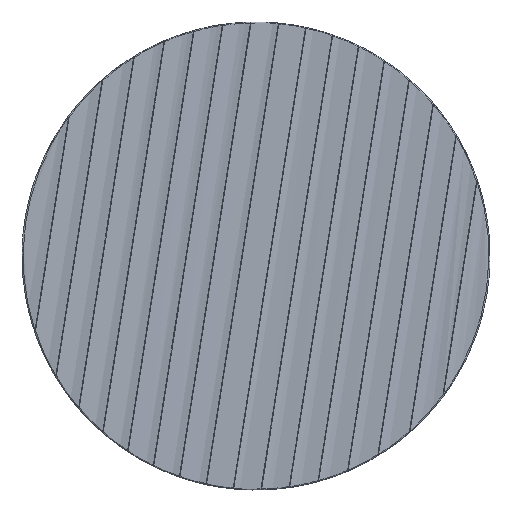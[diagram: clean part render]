
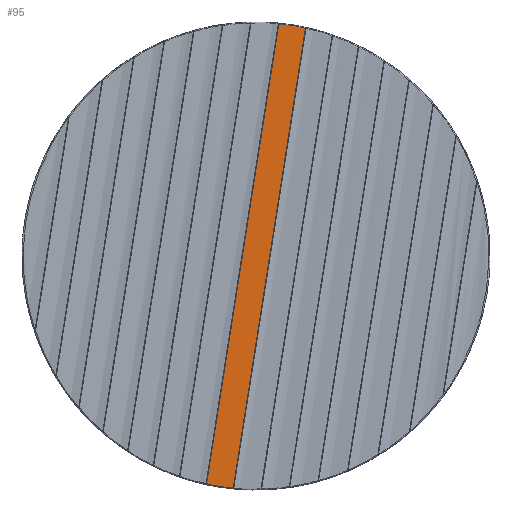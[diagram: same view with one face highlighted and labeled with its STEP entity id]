
A CAD part, front view. The second image highlights one B-rep face of the part: STEP entity #95.
In plain terms, the highlighted free-form (B-spline) face has degree [1, 2] with [2, 9] control points.
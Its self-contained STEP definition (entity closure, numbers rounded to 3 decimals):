
#95=ADVANCED_FACE('',(#1372),#17774,.T.);
#1372=FACE_OUTER_BOUND('',#2651,.T.);
#2651=EDGE_LOOP('',(#4084,#4085,#4086,#4087));
#4084=ORIENTED_EDGE('',*,*,#10093,.F.);
#4085=ORIENTED_EDGE('',*,*,#9957,.F.);
#4086=ORIENTED_EDGE('',*,*,#10089,.F.);
#4087=ORIENTED_EDGE('',*,*,#9956,.F.);
#9956=EDGE_CURVE('',#15930,#15931,#12904,.T.);
#9957=EDGE_CURVE('',#15933,#15932,#12905,.T.);
#10089=EDGE_CURVE('',#15931,#15933,#12985,.T.);
#10093=EDGE_CURVE('',#15932,#15930,#12986,.T.);
#12904=B_SPLINE_CURVE_WITH_KNOTS('',1,(#24171,#24172),.UNSPECIFIED.,.F.,
 .F.,(2,2),(-473.172,0.),.UNSPECIFIED.);
#12905=B_SPLINE_CURVE_WITH_KNOTS('',1,(#24173,#24174),.UNSPECIFIED.,.F.,
 .F.,(2,2),(-473.172,0.),.UNSPECIFIED.);
#12985=B_SPLINE_CURVE_WITH_KNOTS('',3,(#25071,#25072,#25073,#25074,#25075,
#25076,#25077,#25078,#25079,#25080,#25081,#25082),.UNSPECIFIED.,.F.,.F.,
(4,2,2,2,2,4),(0.,6.964,10.445,13.927,20.891,
27.854),.UNSPECIFIED.);
#12986=B_SPLINE_CURVE_WITH_KNOTS('',3,(#25094,#25095,#25096,#25097,#25098,
#25099,#25100,#25101,#25102,#25103,#25104,#25105),.UNSPECIFIED.,.F.,.F.,
(4,2,2,2,2,4),(0.,6.964,10.445,13.927,20.891,
27.854),.UNSPECIFIED.);
#15930=VERTEX_POINT('',#23745);
#15931=VERTEX_POINT('',#23746);
#15932=VERTEX_POINT('',#23747);
#15933=VERTEX_POINT('',#23748);
#17774=(
BOUNDED_SURFACE()
B_SPLINE_SURFACE(1,2,((#19795,#19796,#19797,#19798,#19799,#19800,#19801,
#19802,#19803),(#19804,#19805,#19806,#19807,#19808,#19809,#19810,#19811,
#19812)),.UNSPECIFIED.,.F.,.F.,.F.)
B_SPLINE_SURFACE_WITH_KNOTS((2,2),(3,2,2,2,3),(0.,568.801),(0.,
74.953,149.906,224.859,299.813),
 .UNSPECIFIED.)
GEOMETRIC_REPRESENTATION_ITEM()
RATIONAL_B_SPLINE_SURFACE(((1.,0.707,1.,0.707,1.,
0.707,1.,0.707,1.),(1.,0.707,1.,0.707,
1.,0.707,1.,0.707,1.)))
REPRESENTATION_ITEM('')
SURFACE()
);
#19795=CARTESIAN_POINT('',(3.056,-105.617,-288.359));
#19796=CARTESIAN_POINT('',(3.056,-57.9,-288.359));
#19797=CARTESIAN_POINT('',(-44.084,-57.9,-280.963));
#19798=CARTESIAN_POINT('',(-91.224,-57.9,-273.567));
#19799=CARTESIAN_POINT('',(-91.224,-105.617,-273.567));
#19800=CARTESIAN_POINT('',(-91.224,-153.333,-273.567));
#19801=CARTESIAN_POINT('',(-44.084,-153.333,-280.963));
#19802=CARTESIAN_POINT('',(3.056,-153.333,-288.359));
#19803=CARTESIAN_POINT('',(3.056,-105.617,-288.359));
#19804=CARTESIAN_POINT('',(91.224,-105.617,273.567));
#19805=CARTESIAN_POINT('',(91.224,-57.9,273.567));
#19806=CARTESIAN_POINT('',(44.084,-57.9,280.963));
#19807=CARTESIAN_POINT('',(-3.056,-57.9,288.359));
#19808=CARTESIAN_POINT('',(-3.056,-105.617,288.359));
#19809=CARTESIAN_POINT('',(-3.056,-153.333,288.359));
#19810=CARTESIAN_POINT('',(44.084,-153.333,280.963));
#19811=CARTESIAN_POINT('',(91.224,-153.333,273.567));
#19812=CARTESIAN_POINT('',(91.224,-105.617,273.567));
#23745=CARTESIAN_POINT('',(50.219,-59.913,231.601));
#23746=CARTESIAN_POINT('',(-23.125,-59.913,-235.852));
#23747=CARTESIAN_POINT('',(23.125,-59.913,235.852));
#23748=CARTESIAN_POINT('',(-50.219,-59.913,-231.601));
#24171=CARTESIAN_POINT('',(50.219,-59.913,231.601));
#24172=CARTESIAN_POINT('',(-23.125,-59.913,-235.852));
#24173=CARTESIAN_POINT('',(-50.219,-59.913,-231.601));
#24174=CARTESIAN_POINT('',(23.125,-59.913,235.852));
#25071=CARTESIAN_POINT('',(-23.125,-59.913,-235.852));
#25072=CARTESIAN_POINT('',(-25.354,-59.242,-235.639));
#25073=CARTESIAN_POINT('',(-27.607,-58.741,-235.391));
#25074=CARTESIAN_POINT('',(-31.02,-58.237,-234.961));
#25075=CARTESIAN_POINT('',(-32.163,-58.11,-234.809));
#25076=CARTESIAN_POINT('',(-34.461,-57.941,-234.484));
#25077=CARTESIAN_POINT('',(-35.619,-57.899,-234.311));
#25078=CARTESIAN_POINT('',(-39.065,-57.902,-233.77));
#25079=CARTESIAN_POINT('',(-41.334,-58.072,-233.377));
#25080=CARTESIAN_POINT('',(-45.818,-58.743,-232.533));
#25081=CARTESIAN_POINT('',(-48.032,-59.242,-232.081));
#25082=CARTESIAN_POINT('',(-50.219,-59.913,-231.601));
#25094=CARTESIAN_POINT('',(23.125,-59.913,235.852));
#25095=CARTESIAN_POINT('',(25.354,-59.242,235.639));
#25096=CARTESIAN_POINT('',(27.607,-58.741,235.391));
#25097=CARTESIAN_POINT('',(31.02,-58.237,234.961));
#25098=CARTESIAN_POINT('',(32.163,-58.11,234.809));
#25099=CARTESIAN_POINT('',(34.461,-57.941,234.484));
#25100=CARTESIAN_POINT('',(35.619,-57.899,234.311));
#25101=CARTESIAN_POINT('',(39.065,-57.902,233.77));
#25102=CARTESIAN_POINT('',(41.334,-58.072,233.377));
#25103=CARTESIAN_POINT('',(45.818,-58.743,232.533));
#25104=CARTESIAN_POINT('',(48.032,-59.242,232.081));
#25105=CARTESIAN_POINT('',(50.219,-59.913,231.601));
